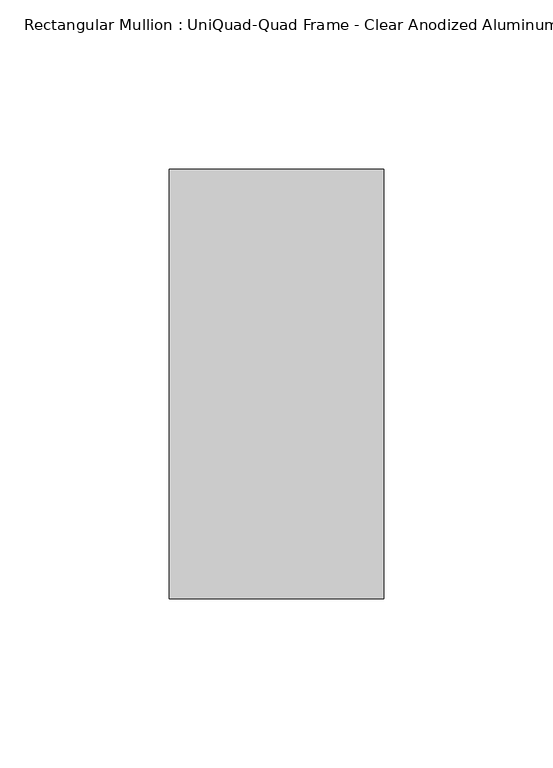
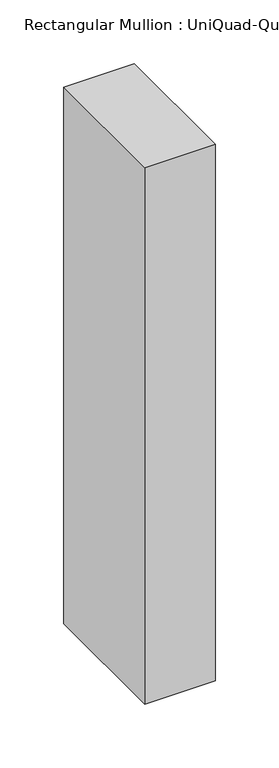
"""IFC4 building model written with IfcOpenShell, lengths in millimetres: member geometry, Rectangular Mullion : UniQuad-Quad Frame - Clear Anodized Aluminum."""

import ifcopenshell
import ifcopenshell.guid

model = None  # the IFC model being written
_history = None  # IfcOwnerHistory: only IFC2X3 demands one
_inside = {}  # id of a spatial element -> (the spatial element, [elements in it])
_under = {}  # id of a project, library or spatial element -> (it, [spatial elements below it])
_declared = {}  # id of a project -> (the project, [libraries it declares])
_typed = {}  # id of a type object -> (the type object, [elements of that type])
_made_of = {}  # id of a material, layer set ... -> (it, [elements and type objects made of it])


def new_model(schema):
    """Start an empty IFC model of exactly this schema.

    Asked for "IFC4X3", IfcOpenShell would pick the latest addendum, in which some entities
    have other attributes; the version numbers below select the first issue.
    IFC2X3 requires an IfcOwnerHistory on every rooted entity: one is made here for all.
    """
    global model, _history
    if schema == "IFC4X3":
        model = ifcopenshell.file(schema_version=(4, 3, 0, 0))
    else:
        model = ifcopenshell.file(schema=schema)
    _inside.clear()
    _under.clear()
    _declared.clear()
    _typed.clear()
    _made_of.clear()
    _history = None
    if model.schema == "IFC2X3":
        org = make("IfcOrganization", Name="unknown")
        user = make(
            "IfcPersonAndOrganization",
            ThePerson=make("IfcPerson", FamilyName="unknown"),
            TheOrganization=org,
        )
        app = make(
            "IfcApplication",
            ApplicationDeveloper=org,
            Version="unknown",
            ApplicationFullName="unknown",
            ApplicationIdentifier="unknown",
        )
        _history = make(
            "IfcOwnerHistory",
            OwningUser=user,
            OwningApplication=app,
            ChangeAction="ADDED",
            CreationDate=0,
        )
    return model


def make(cls, **values):
    """One entity of the class cls with the attributes given. An attribute that is None is left unset."""
    return model.create_entity(
        cls, **{name: value for name, value in values.items() if value is not None}
    )


def rooted(cls, **values):
    """An entity with a GlobalId (a new one), such as an element, a storey or a relation."""
    return make(cls, GlobalId=ifcopenshell.guid.new(), OwnerHistory=_history, **values)


def si_unit(unit_type, name, prefix=None):
    """IfcSIUnit, for example si_unit("LENGTHUNIT", "METRE", prefix="MILLI")."""
    return make("IfcSIUnit", UnitType=unit_type, Prefix=prefix, Name=name)


def assignment(units):
    """IfcUnitAssignment: the units of a project."""
    return None if units is None else make("IfcUnitAssignment", Units=units)


def point(xyz):
    """IfcCartesianPoint."""
    return None if xyz is None else make("IfcCartesianPoint", Coordinates=xyz)


def direction(xyz):
    """IfcDirection."""
    return None if xyz is None else make("IfcDirection", DirectionRatios=xyz)


def frame(location, z_axis=None, x_axis=None):
    """IfcAxis2Placement3D, a coordinate frame: its origin and axes. An axis left out is left unset."""
    return make(
        "IfcAxis2Placement3D",
        Location=point(location),
        Axis=direction(z_axis),
        RefDirection=direction(x_axis),
    )


def origin():
    """The frame at (0, 0, 0) with its axes left unset."""
    return frame((0.0, 0.0, 0.0))


def place(relative_to, where):
    """IfcLocalPlacement: puts the frame where relative to a parent placement (None: the world)."""
    return make(
        "IfcLocalPlacement", PlacementRelTo=relative_to, RelativePlacement=where
    )


def context(
    kind, dimensions, precision=None, world=None, true_north=None, identifier=None
):
    """IfcGeometricRepresentationContext, for example the 3D "Model" context."""
    return make(
        "IfcGeometricRepresentationContext",
        ContextIdentifier=identifier,
        ContextType=kind,
        CoordinateSpaceDimension=dimensions,
        Precision=precision,
        WorldCoordinateSystem=world,
        TrueNorth=true_north,
    )


def project(units=None, contexts=None):
    """IfcProject with its units and contexts."""
    return rooted(
        "IfcProject",
        Name="project",
        RepresentationContexts=contexts,
        UnitsInContext=assignment(units),
    )


def spatial(cls, under=None, at=None, **own):
    """A site, building, storey or space (cls), placed at a placement, below another one or the project."""
    s = rooted(cls, ObjectPlacement=at, **own)
    if under is not None:
        _under.setdefault(under.id(), (under, []))[1].append(s)
    return s


def polyline(points):
    """IfcPolyline through the points."""
    return make("IfcPolyline", Points=[point(p) for p in points])


def outline(outer, holes=None, kind="AREA"):
    """IfcArbitraryClosedProfileDef: a profile drawn as a closed curve; with holes, ...WithVoids."""
    if holes is None:
        return make("IfcArbitraryClosedProfileDef", ProfileType=kind, OuterCurve=outer)
    return make(
        "IfcArbitraryProfileDefWithVoids",
        ProfileType=kind,
        OuterCurve=outer,
        InnerCurves=holes,
    )


def extrude(swept, where, along, depth):
    """IfcExtrudedAreaSolid: the profile swept, set in the frame where, extruded along a direction by depth."""
    return make(
        "IfcExtrudedAreaSolid",
        SweptArea=swept,
        Position=where,
        ExtrudedDirection=direction(along),
        Depth=depth,
    )


def shape(context_of_items, identifier, shape_type, items):
    """IfcShapeRepresentation: the items that make up one representation, for example the "Body"."""
    return make(
        "IfcShapeRepresentation",
        ContextOfItems=context_of_items,
        RepresentationIdentifier=identifier,
        RepresentationType=shape_type,
        Items=items,
    )


def source(mapping_origin, context_of_items, identifier, shape_type, items):
    """IfcRepresentationMap: a shape defined once, which mapped items show again and again."""
    return make(
        "IfcRepresentationMap",
        MappingOrigin=mapping_origin,
        MappedRepresentation=shape(context_of_items, identifier, shape_type, items),
    )


def transform(
    local_origin,
    x_axis=None,
    y_axis=None,
    z_axis=None,
    scale=None,
    scale2=None,
    scale3=None,
    uniform=True,
):
    """IfcCartesianTransformationOperator3D, or its non-uniform kind. x_axis, y_axis, z_axis: its Axis1, 2, 3."""
    if uniform:
        return make(
            "IfcCartesianTransformationOperator3D",
            Axis1=direction(x_axis),
            Axis2=direction(y_axis),
            LocalOrigin=point(local_origin),
            Scale=scale,
            Axis3=direction(z_axis),
        )
    return make(
        "IfcCartesianTransformationOperator3DnonUniform",
        Axis1=direction(x_axis),
        Axis2=direction(y_axis),
        LocalOrigin=point(local_origin),
        Scale=scale,
        Axis3=direction(z_axis),
        Scale2=scale2,
        Scale3=scale3,
    )


def mapped(mapping_source, mapping_target):
    """IfcMappedItem: shows the shape of a source again, moved by a transform."""
    return make(
        "IfcMappedItem", MappingSource=mapping_source, MappingTarget=mapping_target
    )


def made_of(thing, what):
    """Note that an element or type object is made of a material, layer set ...; save() writes the relation."""
    if what is not None:
        _made_of.setdefault(what.id(), (what, []))[1].append(thing)
    return thing


def element(
    cls,
    number,
    at=None,
    inside=None,
    cuts=None,
    type_object=None,
    material=None,
    context=None,
    identifier="Body",
    shape_type=None,
    held_by="IfcProductDefinitionShape",
    body=None,
    shapes=None,
    **own,
):
    """One element of the class cls, such as IfcWall. Its Tag is "e" and its number.

    at: its placement. inside: the storey or other place that contains it. cuts: it is an
    opening in that element (IfcRelVoidsElement). A single representation is given by context,
    identifier, shape_type and body (its items); several are given by shapes. held_by: the class
    of the entity that holds the representations. save() writes the other relations.
    """
    e = rooted(cls, Tag="e%d" % number, ObjectPlacement=at, **own)
    if body is not None:
        shapes = [shape(context, identifier, shape_type, body)]
    if shapes is not None:
        e.Representation = make(held_by, Representations=shapes)
    if inside is not None:
        _inside.setdefault(inside.id(), (inside, []))[1].append(e)
    if cuts is not None:
        rooted(
            "IfcRelVoidsElement", RelatingBuildingElement=cuts, RelatedOpeningElement=e
        )
    if type_object is not None:
        _typed.setdefault(type_object.id(), (type_object, []))[1].append(e)
    return made_of(e, material)


def aggregate(whole, parts):
    """IfcRelAggregates: a whole, such as a stair, and the parts it consists of."""
    return rooted("IfcRelAggregates", RelatingObject=whole, RelatedObjects=parts)


def save(model, path):
    """Write the relations noted so far, then the file.

    IfcRelAggregates (storeys below a building ...), IfcRelContainedInSpatialStructure (elements
    in a storey), IfcRelDefinesByType, IfcRelAssociatesMaterial and IfcRelDeclares: one each for
    every whole, place, type object, material and project.
    """
    for whole, parts in _under.values():
        aggregate(whole, parts)
    for where, things in _inside.values():
        rooted(
            "IfcRelContainedInSpatialStructure",
            RelatedElements=things,
            RelatingStructure=where,
        )
    for kind, things in _typed.values():
        rooted("IfcRelDefinesByType", RelatedObjects=things, RelatingType=kind)
    for what, things in _made_of.values():
        rooted("IfcRelAssociatesMaterial", RelatedObjects=things, RelatingMaterial=what)
    for by, libraries in _declared.values():
        rooted("IfcRelDeclares", RelatingContext=by, RelatedDefinitions=libraries)
    model.write(path)


def rectangular_mullion_uniquad_quad_frame_clear_anodized_7ebbf98f(model_context):
    return source(origin(), model_context, "Body", "SweptSolid", [
        extrude(outline(polyline([(0.0, 63.5), (0.0, -63.5), (-63.5, -63.5), (-63.5, 63.5), (0.0, 63.5)])), frame((0.0, 0.0, -513.159375), z_axis=(0.0, 0.0, 1.0), x_axis=(1.0, 0.0, 0.0)), (0.0, 0.0, 1.0), 513.159375),
    ])


if __name__ == "__main__":
    model = new_model("IFC4")
    model_context = context("Model", 3, world=origin())
    ifc_project = project(units=[si_unit("LENGTHUNIT", "METRE", prefix="MILLI")], contexts=[model_context])
    site = spatial("IfcSite", under=ifc_project)
    building = spatial("IfcBuilding", under=site)
    placement = place(None, origin())
    rectangular_mullion_uniquad_quad_frame_clear_anodized_shape = rectangular_mullion_uniquad_quad_frame_clear_anodized_7ebbf98f(model_context)
    element("IfcMember", 1, ObjectType="Rectangular Mullion : UniQuad-Quad Frame - Clear Anodized Aluminum", at=placement, inside=building, context=model_context, shape_type="MappedRepresentation", body=[
        mapped(rectangular_mullion_uniquad_quad_frame_clear_anodized_shape, transform((0.0, 0.0, 0.0), x_axis=(1.0, 0.0, 0.0), y_axis=(0.0, 1.0, 0.0), z_axis=(0.0, 0.0, 1.0))),
    ])
    save(model, "model.ifc")
